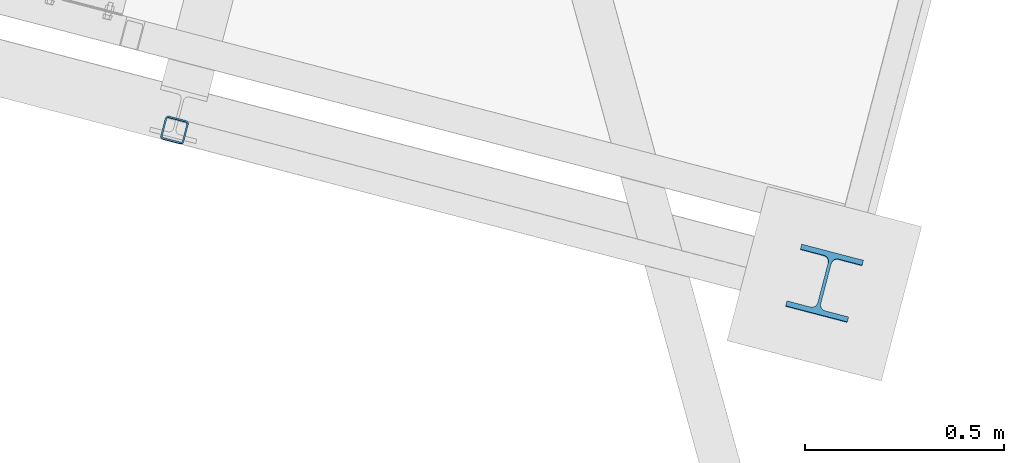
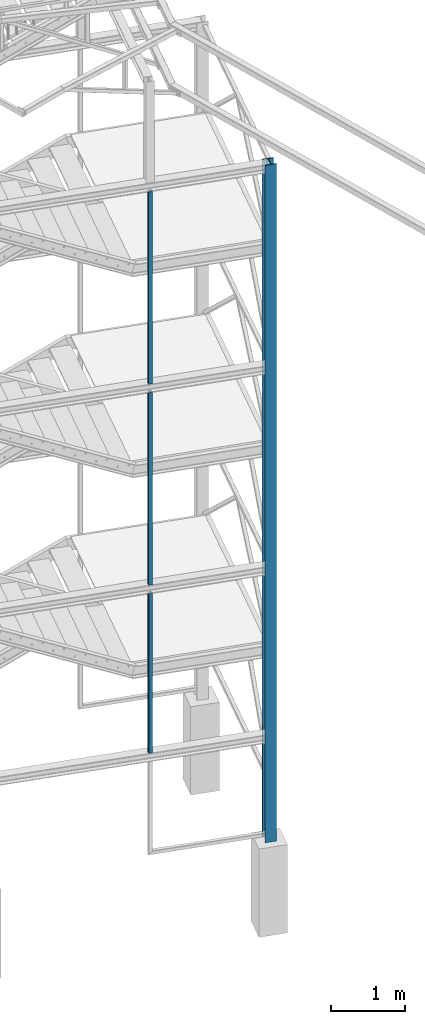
# One storey, part 11 of 169: 4 beams, 4 elements without a shape of their own.
"""IFC2X3 building model written with IfcOpenShell, lengths in millimetres."""

import ifcopenshell
import ifcopenshell.guid

model = None  # the IFC model being written
_history = None  # IfcOwnerHistory: only IFC2X3 demands one
_inside = {}  # id of a spatial element -> (the spatial element, [elements in it])
_under = {}  # id of a project, library or spatial element -> (it, [spatial elements below it])
_declared = {}  # id of a project -> (the project, [libraries it declares])
_typed = {}  # id of a type object -> (the type object, [elements of that type])
_made_of = {}  # id of a material, layer set ... -> (it, [elements and type objects made of it])


def new_model(schema):
    """Start an empty IFC model of exactly this schema.

    Asked for "IFC4X3", IfcOpenShell would pick the latest addendum, in which some entities
    have other attributes; the version numbers below select the first issue.
    IFC2X3 requires an IfcOwnerHistory on every rooted entity: one is made here for all.
    """
    global model, _history
    if schema == "IFC4X3":
        model = ifcopenshell.file(schema_version=(4, 3, 0, 0))
    else:
        model = ifcopenshell.file(schema=schema)
    _inside.clear()
    _under.clear()
    _declared.clear()
    _typed.clear()
    _made_of.clear()
    _history = None
    if model.schema == "IFC2X3":
        org = make("IfcOrganization", Name="unknown")
        user = make(
            "IfcPersonAndOrganization",
            ThePerson=make("IfcPerson", FamilyName="unknown"),
            TheOrganization=org,
        )
        app = make(
            "IfcApplication",
            ApplicationDeveloper=org,
            Version="unknown",
            ApplicationFullName="unknown",
            ApplicationIdentifier="unknown",
        )
        _history = make(
            "IfcOwnerHistory",
            OwningUser=user,
            OwningApplication=app,
            ChangeAction="ADDED",
            CreationDate=0,
        )
    return model


def make(cls, **values):
    """One entity of the class cls with the attributes given. An attribute that is None is left unset."""
    return model.create_entity(
        cls, **{name: value for name, value in values.items() if value is not None}
    )


def rooted(cls, **values):
    """An entity with a GlobalId (a new one), such as an element, a storey or a relation."""
    return make(cls, GlobalId=ifcopenshell.guid.new(), OwnerHistory=_history, **values)


def si_unit(unit_type, name, prefix=None):
    """IfcSIUnit, for example si_unit("LENGTHUNIT", "METRE", prefix="MILLI")."""
    return make("IfcSIUnit", UnitType=unit_type, Prefix=prefix, Name=name)


def assignment(units):
    """IfcUnitAssignment: the units of a project."""
    return None if units is None else make("IfcUnitAssignment", Units=units)


def point(xyz):
    """IfcCartesianPoint."""
    return None if xyz is None else make("IfcCartesianPoint", Coordinates=xyz)


def direction(xyz):
    """IfcDirection."""
    return None if xyz is None else make("IfcDirection", DirectionRatios=xyz)


def frame(location, z_axis=None, x_axis=None):
    """IfcAxis2Placement3D, a coordinate frame: its origin and axes. An axis left out is left unset."""
    return make(
        "IfcAxis2Placement3D",
        Location=point(location),
        Axis=direction(z_axis),
        RefDirection=direction(x_axis),
    )


def frame_2d(location, x_axis=None):
    """IfcAxis2Placement2D, a coordinate frame in the plane: its origin and x axis."""
    return make(
        "IfcAxis2Placement2D", Location=point(location), RefDirection=direction(x_axis)
    )


def origin_with_axes():
    """The frame at (0, 0, 0) with the z axis (0, 0, 1) and the x axis (1, 0, 0) written out."""
    return frame((0.0, 0.0, 0.0), z_axis=(0.0, 0.0, 1.0), x_axis=(1.0, 0.0, 0.0))


def origin_2d_with_axis():
    """The frame at (0, 0) in the plane with the x axis (1, 0) written out."""
    return frame_2d((0.0, 0.0), x_axis=(1.0, 0.0))


def place(relative_to, where):
    """IfcLocalPlacement: puts the frame where relative to a parent placement (None: the world)."""
    return make(
        "IfcLocalPlacement", PlacementRelTo=relative_to, RelativePlacement=where
    )


def context(
    kind, dimensions, precision=None, world=None, true_north=None, identifier=None
):
    """IfcGeometricRepresentationContext, for example the 3D "Model" context."""
    return make(
        "IfcGeometricRepresentationContext",
        ContextIdentifier=identifier,
        ContextType=kind,
        CoordinateSpaceDimension=dimensions,
        Precision=precision,
        WorldCoordinateSystem=world,
        TrueNorth=true_north,
    )


def subcontext(parent, identifier, kind, view, scale=None):
    """IfcGeometricRepresentationSubContext, for example "Body" below "Model"."""
    return make(
        "IfcGeometricRepresentationSubContext",
        ContextIdentifier=identifier,
        ContextType=kind,
        ParentContext=parent,
        TargetScale=scale,
        TargetView=view,
    )


def project(units=None, contexts=None):
    """IfcProject with its units and contexts."""
    return rooted(
        "IfcProject",
        Name="project",
        RepresentationContexts=contexts,
        UnitsInContext=assignment(units),
    )


def spatial(cls, under=None, at=None, **own):
    """A site, building, storey or space (cls), placed at a placement, below another one or the project."""
    s = rooted(cls, ObjectPlacement=at, **own)
    if under is not None:
        _under.setdefault(under.id(), (under, []))[1].append(s)
    return s


def profile(cls, at=None, kind="AREA", **sizes):
    """A parametric profile (cls). Its sizes go by their IFC names, for example OverallWidth=200.0."""
    return make(cls, ProfileType=kind, Position=at, **sizes)


def hollow_rectangle(**sizes):
    """IfcRectangleHollowProfileDef."""
    return profile("IfcRectangleHollowProfileDef", **sizes)


def i_section(**sizes):
    """IfcIShapeProfileDef."""
    return profile("IfcIShapeProfileDef", **sizes)


def extrude(swept, where, along, depth):
    """IfcExtrudedAreaSolid: the profile swept, set in the frame where, extruded along a direction by depth."""
    return make(
        "IfcExtrudedAreaSolid",
        SweptArea=swept,
        Position=where,
        ExtrudedDirection=direction(along),
        Depth=depth,
    )


def shape(context_of_items, identifier, shape_type, items):
    """IfcShapeRepresentation: the items that make up one representation, for example the "Body"."""
    return make(
        "IfcShapeRepresentation",
        ContextOfItems=context_of_items,
        RepresentationIdentifier=identifier,
        RepresentationType=shape_type,
        Items=items,
    )


def material(Name=None, Category=None):
    """IfcMaterial."""
    return make("IfcMaterial", Name=Name, Category=Category)


def made_of(thing, what):
    """Note that an element or type object is made of a material, layer set ...; save() writes the relation."""
    if what is not None:
        _made_of.setdefault(what.id(), (what, []))[1].append(thing)
    return thing


def type_object(cls, material=None, **own):
    """A type object (cls), such as IfcWallType, which elements share."""
    return made_of(rooted(cls, **own), material)


def element(
    cls,
    number,
    at=None,
    inside=None,
    cuts=None,
    type_object=None,
    material=None,
    context=None,
    identifier="Body",
    shape_type=None,
    held_by="IfcProductDefinitionShape",
    body=None,
    shapes=None,
    **own,
):
    """One element of the class cls, such as IfcWall. Its Tag is "e" and its number.

    at: its placement. inside: the storey or other place that contains it. cuts: it is an
    opening in that element (IfcRelVoidsElement). A single representation is given by context,
    identifier, shape_type and body (its items); several are given by shapes. held_by: the class
    of the entity that holds the representations. save() writes the other relations.
    """
    e = rooted(cls, Tag="e%d" % number, ObjectPlacement=at, **own)
    if body is not None:
        shapes = [shape(context, identifier, shape_type, body)]
    if shapes is not None:
        e.Representation = make(held_by, Representations=shapes)
    if inside is not None:
        _inside.setdefault(inside.id(), (inside, []))[1].append(e)
    if cuts is not None:
        rooted(
            "IfcRelVoidsElement", RelatingBuildingElement=cuts, RelatedOpeningElement=e
        )
    if type_object is not None:
        _typed.setdefault(type_object.id(), (type_object, []))[1].append(e)
    return made_of(e, material)


def aggregate(whole, parts):
    """IfcRelAggregates: a whole, such as a stair, and the parts it consists of."""
    return rooted("IfcRelAggregates", RelatingObject=whole, RelatedObjects=parts)


def save(model, path):
    """Write the relations noted so far, then the file.

    IfcRelAggregates (storeys below a building ...), IfcRelContainedInSpatialStructure (elements
    in a storey), IfcRelDefinesByType, IfcRelAssociatesMaterial and IfcRelDeclares: one each for
    every whole, place, type object, material and project.
    """
    for whole, parts in _under.values():
        aggregate(whole, parts)
    for where, things in _inside.values():
        rooted(
            "IfcRelContainedInSpatialStructure",
            RelatedElements=things,
            RelatingStructure=where,
        )
    for kind, things in _typed.values():
        rooted("IfcRelDefinesByType", RelatedObjects=things, RelatingType=kind)
    for what, things in _made_of.values():
        rooted("IfcRelAssociatesMaterial", RelatedObjects=things, RelatingMaterial=what)
    for by, libraries in _declared.values():
        rooted("IfcRelDeclares", RelatingContext=by, RelatedDefinitions=libraries)
    model.write(path)


model = new_model("IFC2X3")

# Units and contexts
model_context = context("Model", 3, precision=1e-05, world=origin_with_axes())
body_context = subcontext(model_context, "Body", "Model", "MODEL_VIEW")
ifc_project = project(units=[si_unit("LENGTHUNIT", "METRE", prefix="MILLI"), si_unit("AREAUNIT", "SQUARE_METRE"), si_unit("VOLUMEUNIT", "CUBIC_METRE"), si_unit("MASSUNIT", "GRAM", prefix="KILO"), si_unit("TIMEUNIT", "SECOND"), si_unit("PLANEANGLEUNIT", "RADIAN"), si_unit("SOLIDANGLEUNIT", "STERADIAN"), si_unit("THERMODYNAMICTEMPERATUREUNIT", "DEGREE_CELSIUS"), si_unit("LUMINOUSINTENSITYUNIT", "LUMEN")], contexts=[model_context])

# Site, building, storey
site_placement = place(None, origin_with_axes())
site = spatial("IfcSite", under=ifc_project, at=site_placement, Name="Undefined", CompositionType="ELEMENT")
building_placement = place(site_placement, origin_with_axes())
building = spatial("IfcBuilding", under=site, at=building_placement, Name="Undefined", CompositionType="ELEMENT")
storey_placement = place(building_placement, origin_with_axes())
storey = spatial("IfcBuildingStorey", under=building, at=storey_placement, Name="Undefined", CompositionType="ELEMENT", Elevation=0.0)

# Assembly, beam
assembly_1_placement = place(storey_placement, origin_with_axes())
assembly_1 = element("IfcElementAssembly", 1, at=assembly_1_placement, inside=storey, Name="Steel Assembly", AssemblyPlace="NOTDEFINED", PredefinedType="RIGID_FRAME")
ifc_material = material(Name="STEEL/S235")
beam_type_1 = type_object("IfcBeamType", Name="SHS60*4", PredefinedType="NOTDEFINED")
beam_1_placement = place(assembly_1_placement, frame((-25011.981596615, 4691.25364913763, 5400.45094327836), z_axis=(-0.967563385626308, 0.252628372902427, -1.72000000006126e-07), x_axis=(-3.45692487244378e-05, -0.000132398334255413, -0.999999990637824)))
beam_1 = element("IfcBeam", 2, at=beam_1_placement, type_object=beam_type_1, material=ifc_material, Name="BEAM", ObjectType="SHS60*4", context=body_context, shape_type="SweptSolid", body=[
    extrude(hollow_rectangle(XDim=60.0, YDim=60.0, WallThickness=4.0, InnerFilletRadius=4.0, OuterFilletRadius=8.0, at=origin_2d_with_axis()), frame((2619.99999999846, -4.54818366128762e-13, 3.6379875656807e-12), z_axis=(-1.0, -3.46944695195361e-18, -1.38777878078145e-17), x_axis=(1.73472347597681e-18, -1.0, 0.0)), (0.0, 0.0, 1.0), 2620.0),
])
aggregate(assembly_1, [beam_1])

assembly_2_placement = place(storey_placement, origin_with_axes())
assembly_2 = element("IfcElementAssembly", 3, at=assembly_2_placement, inside=storey, Name="Steel Assembly", AssemblyPlace="NOTDEFINED", PredefinedType="RIGID_FRAME")
beam_2_placement = place(assembly_2_placement, frame((-25011.7534418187, 4692.12747904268, 12000.4508814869), z_axis=(-0.967563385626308, 0.252628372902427, -1.72000000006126e-07), x_axis=(-3.45692487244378e-05, -0.000132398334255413, -0.999999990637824)))
beam_2 = element("IfcBeam", 4, at=beam_2_placement, type_object=beam_type_1, material=ifc_material, Name="BEAM", ObjectType="SHS60*4", context=body_context, shape_type="SweptSolid", body=[
    extrude(hollow_rectangle(XDim=60.0, YDim=60.0, WallThickness=4.0, InnerFilletRadius=4.0, OuterFilletRadius=8.0, at=origin_2d_with_axis()), frame((3159.99999999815, -4.54661698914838e-13, 7.27594675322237e-12), z_axis=(-1.0, -3.46944695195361e-18, -1.38777878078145e-17), x_axis=(1.73472347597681e-18, -1.0, 0.0)), (0.0, 0.0, 1.0), 3160.0),
])
aggregate(assembly_2, [beam_2])

assembly_3_placement = place(storey_placement, origin_with_axes())
assembly_3 = element("IfcElementAssembly", 5, at=assembly_3_placement, inside=storey, Name="Steel Assembly", AssemblyPlace="NOTDEFINED", PredefinedType="RIGID_FRAME")
beam_3_placement = place(assembly_3_placement, frame((-25011.8675192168, 4691.69056409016, 8700.45091238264), z_axis=(-0.967563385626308, 0.252628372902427, -1.72000000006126e-07), x_axis=(-3.45692487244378e-05, -0.000132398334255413, -0.999999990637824)))
beam_3 = element("IfcBeam", 6, at=beam_3_placement, type_object=beam_type_1, material=ifc_material, Name="BEAM", ObjectType="SHS60*4", context=body_context, shape_type="SweptSolid", body=[
    extrude(hollow_rectangle(XDim=60.0, YDim=60.0, WallThickness=4.0, InnerFilletRadius=4.0, OuterFilletRadius=8.0, at=origin_2d_with_axis()), frame((3159.99999999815, -4.54661698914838e-13, 7.27594675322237e-12), z_axis=(-1.0, -3.46944695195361e-18, -1.38777878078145e-17), x_axis=(1.73472347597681e-18, -1.0, 0.0)), (0.0, 0.0, 1.0), 3160.0),
])
aggregate(assembly_3, [beam_3])

assembly_4_placement = place(storey_placement, origin_with_axes())
assembly_4 = element("IfcElementAssembly", 7, at=assembly_4_placement, inside=storey, Name="Steel Assembly", AssemblyPlace="NOTDEFINED", PredefinedType="RIGID_FRAME")
beam_type_2 = type_object("IfcBeamType", Name="HEB160", PredefinedType="NOTDEFINED")
beam_4_placement = place(assembly_4_placement, frame((-23381.3592026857, 4306.223754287, 1020.44551080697), z_axis=(0.252628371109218, 0.967563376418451, -0.000136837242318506), x_axis=(3.4552000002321e-05, 0.000132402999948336, 0.999999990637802)))
beam_4 = element("IfcBeam", 8, at=beam_4_placement, type_object=beam_type_2, material=ifc_material, Name="COLUMN", ObjectType="HEB160", context=body_context, shape_type="SweptSolid", body=[
    extrude(i_section(OverallWidth=160.0, OverallDepth=160.0, WebThickness=8.0, FlangeThickness=13.0, FilletRadius=15.0, at=origin_2d_with_axis()), frame((11119.9999999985, 3.63793575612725e-12, 9.09494701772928e-13), z_axis=(-1.0, -3.46944695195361e-18, -1.38777878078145e-17), x_axis=(1.73472347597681e-18, -1.0, 0.0)), (0.0, 0.0, 1.0), 11120.0),
])
aggregate(assembly_4, [beam_4])

save(model, "model.ifc")
